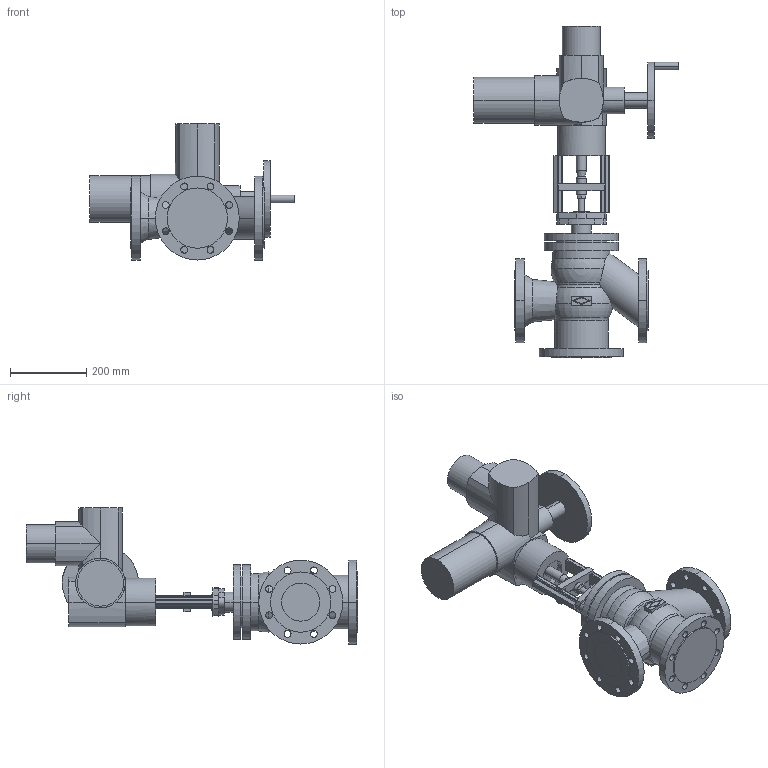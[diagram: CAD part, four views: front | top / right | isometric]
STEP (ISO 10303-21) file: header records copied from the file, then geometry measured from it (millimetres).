
FILE_DESCRIPTION(('OneSpaceDesigner STEP Export'),'2;1');
FILE_NAME('c000003161.stp','2007-01-24T10:33:08',(''),(''),'OneSpace Designer STEP processor for AP214 (Solid Model)','OneSpace Designer 14.00B 27-May-2006 (C) CoCreate Software GmbH','');
FILE_SCHEMA(('AUTOMOTIVE_DESIGN { 1 0 10303 214 1 1 1 1 }'));
Length unit declared in the file: millimetre
Products named in the file (2): 1; 2
Bounding box: 536 x 870.5 x 357 mm (x, y, z)
Volume: 20837790.8 mm3; surface area: 1056471.5 mm2
Topology: 2 solids, 2 shells, 309 faces, 801 edges, 510 vertices
Faces by surface type: cylinder 164, plane 123, torus 10, cone 8, sphere 4
Entity records: 8922 total; most frequent: CARTESIAN_POINT 1976, ORIENTED_EDGE 1594, DIRECTION 1248, EDGE_CURVE 797, VERTEX_POINT 510, AXIS2_PLACEMENT_3D 432, EDGE_LOOP 387, VECTOR 384
